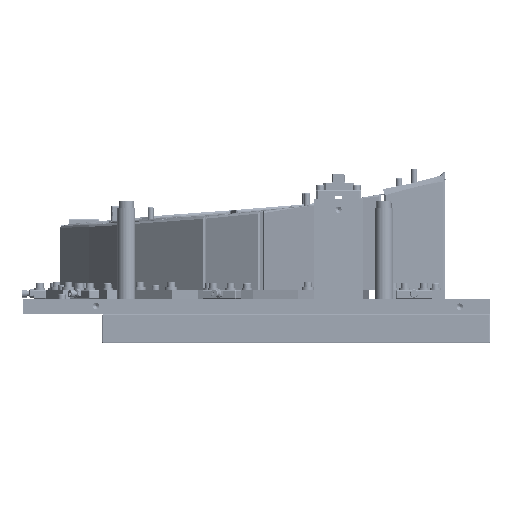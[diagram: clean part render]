
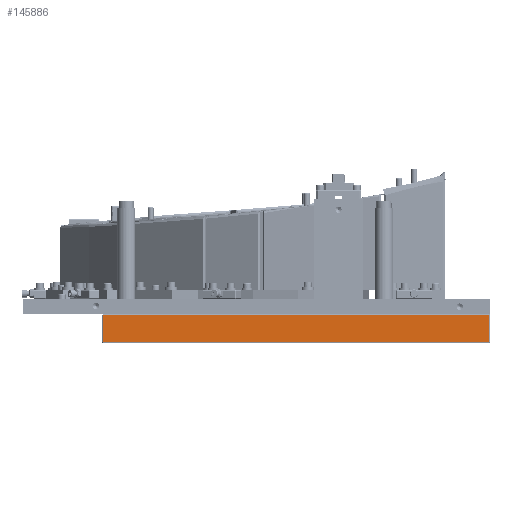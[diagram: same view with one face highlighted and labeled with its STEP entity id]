
A CAD part, left-side view. The second image highlights one B-rep face of the part: STEP entity #145886.
In plain terms, the highlighted planar face has unit normal (-1, 0, 0).
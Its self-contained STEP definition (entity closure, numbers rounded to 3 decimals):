
#22891=FACE_OUTER_BOUND('',#32405,.T.);
#32405=EDGE_LOOP('',(#105069,#105070,#105071,#105072));
#42476=LINE('',#249055,#51235);
#42478=LINE('',#249058,#51237);
#42479=LINE('',#249061,#51238);
#42490=LINE('',#249844,#51249);
#51235=VECTOR('',#174551,44.);
#51237=VECTOR('',#174555,636.);
#51238=VECTOR('',#174558,44.);
#51249=VECTOR('',#174607,636.);
#61589=VERTEX_POINT('',#248209);
#61594=VERTEX_POINT('',#248651);
#61600=VERTEX_POINT('',#249011);
#61601=VERTEX_POINT('',#249060);
#78176=EDGE_CURVE('',#61600,#61589,#42476,.T.);
#78178=EDGE_CURVE('',#61589,#61594,#42478,.T.);
#78179=EDGE_CURVE('',#61594,#61601,#42479,.T.);
#78205=EDGE_CURVE('',#61600,#61601,#42490,.T.);
#105069=ORIENTED_EDGE('',*,*,#78176,.F.);
#105070=ORIENTED_EDGE('',*,*,#78205,.T.);
#105071=ORIENTED_EDGE('',*,*,#78179,.F.);
#105072=ORIENTED_EDGE('',*,*,#78178,.F.);
#140833=PLANE('',#156446);
#145886=ADVANCED_FACE('',(#22891),#140833,.T.);
#156446=AXIS2_PLACEMENT_3D('',#249843,#174605,#174606);
#174551=DIRECTION('',(0.,0.,1.));
#174555=DIRECTION('',(0.,-1.,0.));
#174558=DIRECTION('',(0.,0.,-1.));
#174605=DIRECTION('center_axis',(-1.,0.,0.));
#174606=DIRECTION('ref_axis',(0.,0.,1.));
#174607=DIRECTION('',(0.,-1.,0.));
#248209=CARTESIAN_POINT('',(-605.,253.,-2.));
#248651=CARTESIAN_POINT('',(-605.,-383.,-2.));
#249011=CARTESIAN_POINT('',(-605.,253.,-46.));
#249055=CARTESIAN_POINT('',(-605.,253.,-46.));
#249058=CARTESIAN_POINT('',(-605.,253.,-2.));
#249060=CARTESIAN_POINT('',(-605.,-383.,-46.));
#249061=CARTESIAN_POINT('',(-605.,-383.,-2.));
#249843=CARTESIAN_POINT('Origin',(-605.,-65.,-24.));
#249844=CARTESIAN_POINT('',(-605.,253.,-46.));
